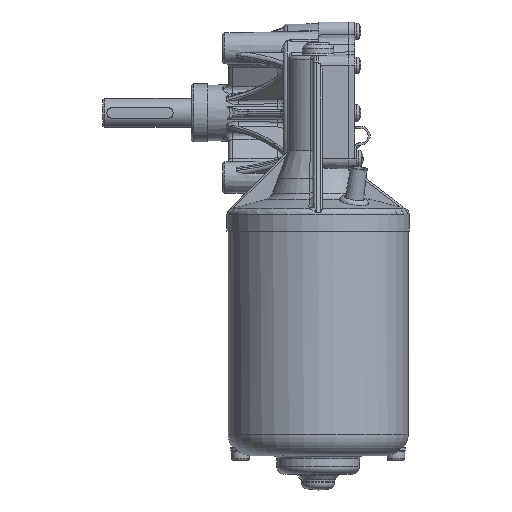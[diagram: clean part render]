
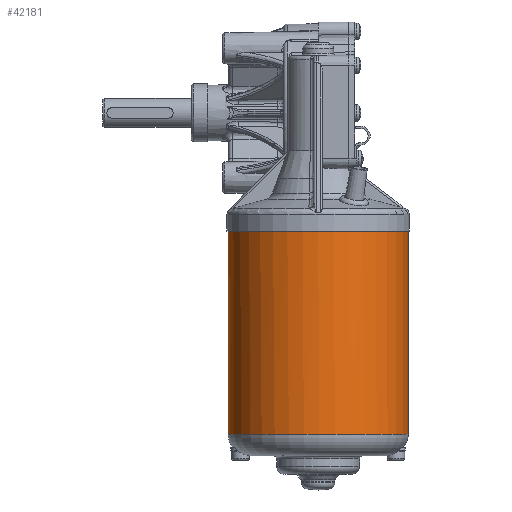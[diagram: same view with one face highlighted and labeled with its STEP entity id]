
A CAD part, front view. The second image highlights one B-rep face of the part: STEP entity #42181.
In plain terms, the highlighted cylindrical face has radius 43.5 mm (diameter 87 mm), a full revolution.
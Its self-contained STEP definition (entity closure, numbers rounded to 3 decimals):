
#41921=CARTESIAN_POINT('',(43.5,-41.95,-57.));
#41922=VERTEX_POINT('',#41921);
#41923=CARTESIAN_POINT('',(0.,-41.95,-57.0));
#41924=DIRECTION('',(0.0,0.0,1.0));
#41925=DIRECTION('',(1.0,0.0,0.0));
#41926=AXIS2_PLACEMENT_3D('',#41923,#41924,#41925);
#41927=CIRCLE('',#41926,43.5);
#41928=EDGE_CURVE('',#41922,#41922,#41927,.T.);
#42162=CARTESIAN_POINT('',(0.,-41.95,-106.));
#42163=DIRECTION('',(0.0,0.0,-1.0));
#42164=DIRECTION('',(1.0,0.0,0.0));
#42165=AXIS2_PLACEMENT_3D('',#42162,#42163,#42164);
#42166=CYLINDRICAL_SURFACE('',#42165,43.5);
#42167=CARTESIAN_POINT('',(43.5,-41.95,-155.0));
#42168=VERTEX_POINT('',#42167);
#42169=CARTESIAN_POINT('',(0.,-41.95,-155.0));
#42170=DIRECTION('',(0.0,0.0,-1.0));
#42171=DIRECTION('',(1.0,0.0,0.0));
#42172=AXIS2_PLACEMENT_3D('',#42169,#42170,#42171);
#42173=CIRCLE('',#42172,43.5);
#42174=EDGE_CURVE('',#42168,#42168,#42173,.T.);
#42175=ORIENTED_EDGE('',*,*,#42174,.F.);
#42176=EDGE_LOOP('',(#42175));
#42177=FACE_OUTER_BOUND('',#42176,.T.);
#42178=ORIENTED_EDGE('',*,*,#41928,.F.);
#42179=EDGE_LOOP('',(#42178));
#42180=FACE_BOUND('',#42179,.T.);
#42181=ADVANCED_FACE('',(#42177,#42180),#42166,.T.);
